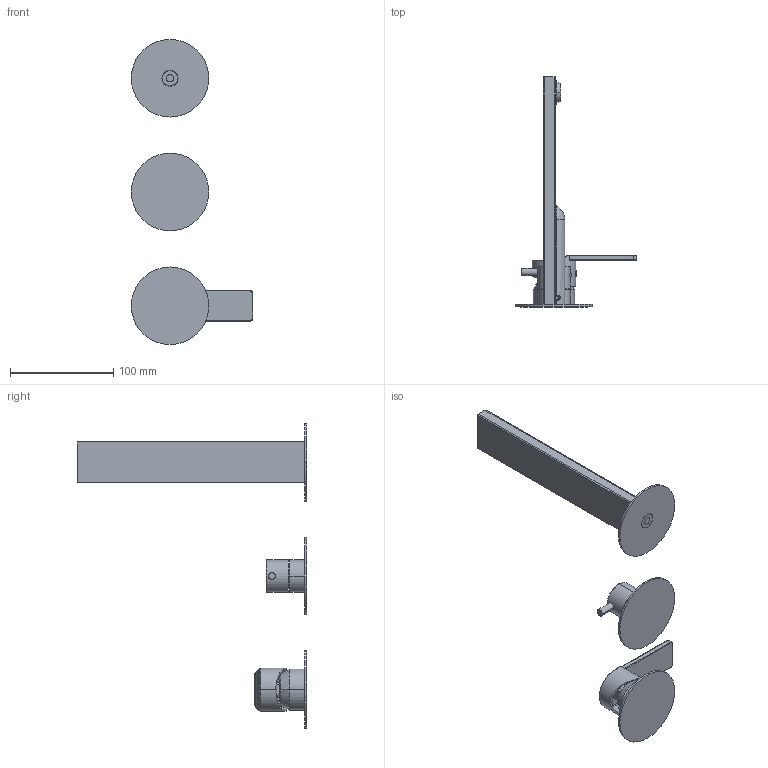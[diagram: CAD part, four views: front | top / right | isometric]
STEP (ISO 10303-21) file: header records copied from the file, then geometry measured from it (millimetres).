
FILE_DESCRIPTION((''),'2;1');
FILE_NAME('47558V2_SW0001','2024-12-16T08:57:11',('carloff'),(''),'CREO PARAMETRIC BY PTC INC, 2022014','CREO PARAMETRIC BY PTC INC, 2022014','');
FILE_SCHEMA(('CONFIG_CONTROL_DESIGN'));
Length unit declared in the file: millimetre
Products named in the file (1): 47558V2_SW0001
Bounding box: 117.5 x 222 x 295 mm (x, y, z)
Volume: 207652.9 mm3; surface area: 83616.4 mm2
Topology: 3 solids, 3 shells, 383 faces, 997 edges, 622 vertices
Faces by surface type: plane 138, cylinder 126, cone 40, torus 38, bspline 37, sphere 4
Entity records: 20188 total; most frequent: CARTESIAN_POINT 11057, ORIENTED_EDGE 1972, DIRECTION 1822, EDGE_CURVE 986, AXIS2_PLACEMENT_3D 696, VERTEX_POINT 622, VECTOR 430, LINE 430
